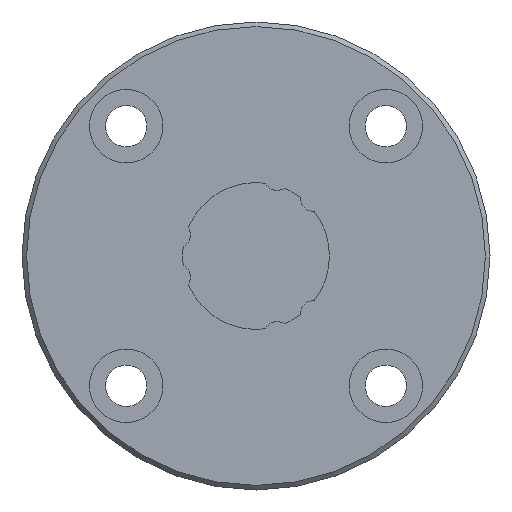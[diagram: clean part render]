
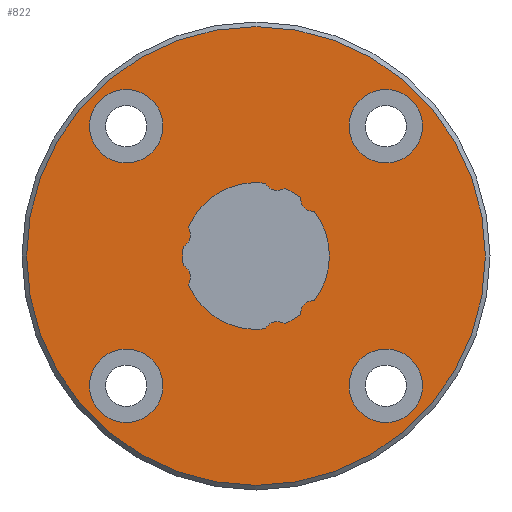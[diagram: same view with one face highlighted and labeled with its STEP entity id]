
A CAD part, left-side view. The second image highlights one B-rep face of the part: STEP entity #822.
In plain terms, the highlighted planar face has unit normal (-1, 0, 0).
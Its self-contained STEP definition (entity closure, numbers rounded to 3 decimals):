
#44=PLANE('',#927);
#175=ORIENTED_EDGE('',*,*,#351,.F.);
#176=ORIENTED_EDGE('',*,*,#352,.F.);
#177=ORIENTED_EDGE('',*,*,#353,.F.);
#178=ORIENTED_EDGE('',*,*,#354,.F.);
#179=ORIENTED_EDGE('',*,*,#355,.F.);
#180=ORIENTED_EDGE('',*,*,#356,.T.);
#181=ORIENTED_EDGE('',*,*,#357,.F.);
#182=ORIENTED_EDGE('',*,*,#358,.T.);
#183=ORIENTED_EDGE('',*,*,#359,.F.);
#184=ORIENTED_EDGE('',*,*,#360,.T.);
#185=ORIENTED_EDGE('',*,*,#361,.F.);
#186=ORIENTED_EDGE('',*,*,#362,.T.);
#187=ORIENTED_EDGE('',*,*,#363,.F.);
#188=ORIENTED_EDGE('',*,*,#364,.T.);
#189=ORIENTED_EDGE('',*,*,#365,.F.);
#190=ORIENTED_EDGE('',*,*,#366,.T.);
#191=ORIENTED_EDGE('',*,*,#367,.F.);
#351=EDGE_CURVE('',#445,#445,#523,.T.);
#352=EDGE_CURVE('',#446,#446,#524,.F.);
#353=EDGE_CURVE('',#447,#447,#525,.F.);
#354=EDGE_CURVE('',#448,#448,#526,.F.);
#355=EDGE_CURVE('',#449,#449,#527,.F.);
#356=EDGE_CURVE('',#450,#451,#528,.T.);
#357=EDGE_CURVE('',#452,#451,#529,.T.);
#358=EDGE_CURVE('',#452,#453,#530,.T.);
#359=EDGE_CURVE('',#454,#453,#531,.T.);
#360=EDGE_CURVE('',#454,#455,#532,.T.);
#361=EDGE_CURVE('',#456,#455,#533,.T.);
#362=EDGE_CURVE('',#456,#457,#534,.T.);
#363=EDGE_CURVE('',#458,#457,#535,.T.);
#364=EDGE_CURVE('',#458,#459,#536,.T.);
#365=EDGE_CURVE('',#460,#459,#537,.T.);
#366=EDGE_CURVE('',#460,#461,#538,.T.);
#367=EDGE_CURVE('',#450,#461,#539,.T.);
#445=VERTEX_POINT('',#1436);
#446=VERTEX_POINT('',#1438);
#447=VERTEX_POINT('',#1440);
#448=VERTEX_POINT('',#1442);
#449=VERTEX_POINT('',#1444);
#450=VERTEX_POINT('',#1446);
#451=VERTEX_POINT('',#1447);
#452=VERTEX_POINT('',#1449);
#453=VERTEX_POINT('',#1451);
#454=VERTEX_POINT('',#1453);
#455=VERTEX_POINT('',#1455);
#456=VERTEX_POINT('',#1457);
#457=VERTEX_POINT('',#1459);
#458=VERTEX_POINT('',#1461);
#459=VERTEX_POINT('',#1463);
#460=VERTEX_POINT('',#1465);
#461=VERTEX_POINT('',#1467);
#523=CIRCLE('',#928,25.);
#524=CIRCLE('',#929,4.);
#525=CIRCLE('',#930,4.);
#526=CIRCLE('',#931,4.);
#527=CIRCLE('',#932,4.);
#528=CIRCLE('',#933,8.);
#529=CIRCLE('',#934,1.44);
#530=CIRCLE('',#935,8.);
#531=CIRCLE('',#936,1.44);
#532=CIRCLE('',#937,8.);
#533=CIRCLE('',#938,1.44);
#534=CIRCLE('',#939,8.);
#535=CIRCLE('',#940,1.44);
#536=CIRCLE('',#941,8.);
#537=CIRCLE('',#942,1.44);
#538=CIRCLE('',#943,8.);
#539=CIRCLE('',#944,1.44);
#593=EDGE_LOOP('',(#175));
#594=EDGE_LOOP('',(#176));
#595=EDGE_LOOP('',(#177));
#596=EDGE_LOOP('',(#178));
#597=EDGE_LOOP('',(#179));
#598=EDGE_LOOP('',(#180,#181,#182,#183,#184,#185,#186,#187,#188,#189,#190,
#191));
#689=FACE_BOUND('',#593,.T.);
#690=FACE_BOUND('',#594,.T.);
#691=FACE_BOUND('',#595,.T.);
#692=FACE_BOUND('',#596,.T.);
#693=FACE_BOUND('',#597,.T.);
#694=FACE_BOUND('',#598,.T.);
#822=ADVANCED_FACE('',(#689,#690,#691,#692,#693,#694),#44,.F.);
#927=AXIS2_PLACEMENT_3D('',#1434,#1114,#1115);
#928=AXIS2_PLACEMENT_3D('',#1435,#1116,#1117);
#929=AXIS2_PLACEMENT_3D('',#1437,#1118,#1119);
#930=AXIS2_PLACEMENT_3D('',#1439,#1120,#1121);
#931=AXIS2_PLACEMENT_3D('',#1441,#1122,#1123);
#932=AXIS2_PLACEMENT_3D('',#1443,#1124,#1125);
#933=AXIS2_PLACEMENT_3D('',#1445,#1126,#1127);
#934=AXIS2_PLACEMENT_3D('',#1448,#1128,#1129);
#935=AXIS2_PLACEMENT_3D('',#1450,#1130,#1131);
#936=AXIS2_PLACEMENT_3D('',#1452,#1132,#1133);
#937=AXIS2_PLACEMENT_3D('',#1454,#1134,#1135);
#938=AXIS2_PLACEMENT_3D('',#1456,#1136,#1137);
#939=AXIS2_PLACEMENT_3D('',#1458,#1138,#1139);
#940=AXIS2_PLACEMENT_3D('',#1460,#1140,#1141);
#941=AXIS2_PLACEMENT_3D('',#1462,#1142,#1143);
#942=AXIS2_PLACEMENT_3D('',#1464,#1144,#1145);
#943=AXIS2_PLACEMENT_3D('',#1466,#1146,#1147);
#944=AXIS2_PLACEMENT_3D('',#1468,#1148,#1149);
#1114=DIRECTION('',(1.,0.,0.));
#1115=DIRECTION('',(0.,0.,-1.));
#1116=DIRECTION('',(1.,0.,0.));
#1117=DIRECTION('',(0.,0.,-1.));
#1118=DIRECTION('',(1.,0.,0.));
#1119=DIRECTION('',(0.,0.,-1.));
#1120=DIRECTION('',(1.,0.,0.));
#1121=DIRECTION('',(0.,0.,-1.));
#1122=DIRECTION('',(1.,0.,0.));
#1123=DIRECTION('',(0.,0.,-1.));
#1124=DIRECTION('',(1.,0.,0.));
#1125=DIRECTION('',(0.,0.,-1.));
#1126=DIRECTION('',(1.,0.,0.));
#1127=DIRECTION('',(0.,0.,-1.));
#1128=DIRECTION('',(1.,0.,0.));
#1129=DIRECTION('',(0.,0.,-1.));
#1130=DIRECTION('',(1.,0.,0.));
#1131=DIRECTION('',(0.,0.,-1.));
#1132=DIRECTION('',(1.,0.,0.));
#1133=DIRECTION('',(0.,0.,-1.));
#1134=DIRECTION('',(1.,0.,0.));
#1135=DIRECTION('',(0.,0.,-1.));
#1136=DIRECTION('',(1.,0.,0.));
#1137=DIRECTION('',(0.,0.,-1.));
#1138=DIRECTION('',(1.,0.,0.));
#1139=DIRECTION('',(0.,0.,-1.));
#1140=DIRECTION('',(1.,0.,0.));
#1141=DIRECTION('',(0.,0.,-1.));
#1142=DIRECTION('',(1.,0.,0.));
#1143=DIRECTION('',(0.,0.,-1.));
#1144=DIRECTION('',(1.,0.,0.));
#1145=DIRECTION('',(0.,0.,-1.));
#1146=DIRECTION('',(1.,0.,0.));
#1147=DIRECTION('',(0.,0.,-1.));
#1148=DIRECTION('',(1.,0.,0.));
#1149=DIRECTION('',(0.,0.,-1.));
#1434=CARTESIAN_POINT('',(0.,0.,0.));
#1435=CARTESIAN_POINT('',(0.,0.,0.));
#1436=CARTESIAN_POINT('',(0.,0.,-25.));
#1437=CARTESIAN_POINT('',(0.,-14.142,14.142));
#1438=CARTESIAN_POINT('',(0.,-14.142,10.142));
#1439=CARTESIAN_POINT('',(0.,-14.142,-14.142));
#1440=CARTESIAN_POINT('',(0.,-14.142,-18.142));
#1441=CARTESIAN_POINT('',(0.,14.142,-14.142));
#1442=CARTESIAN_POINT('',(0.,14.142,-18.142));
#1443=CARTESIAN_POINT('',(0.,14.142,14.142));
#1444=CARTESIAN_POINT('',(0.,14.142,10.142));
#1445=CARTESIAN_POINT('',(0.,0.,0.));
#1446=CARTESIAN_POINT('',(0.,7.934,-1.025));
#1447=CARTESIAN_POINT('',(0.,7.934,1.025));
#1448=CARTESIAN_POINT('',(0.,8.597,2.303));
#1449=CARTESIAN_POINT('',(0.,7.384,3.079));
#1450=CARTESIAN_POINT('',(0.,0.,0.));
#1451=CARTESIAN_POINT('',(0.,-1.025,7.934));
#1452=CARTESIAN_POINT('',(0.,-2.303,8.597));
#1453=CARTESIAN_POINT('',(0.,-3.079,7.384));
#1454=CARTESIAN_POINT('',(0.,0.,0.));
#1455=CARTESIAN_POINT('',(0.,-4.855,6.359));
#1456=CARTESIAN_POINT('',(0.,-6.293,6.293));
#1457=CARTESIAN_POINT('',(0.,-6.359,4.855));
#1458=CARTESIAN_POINT('',(0.,0.,0.));
#1459=CARTESIAN_POINT('',(0.,-6.359,-4.855));
#1460=CARTESIAN_POINT('',(0.,-6.293,-6.293));
#1461=CARTESIAN_POINT('',(0.,-4.855,-6.359));
#1462=CARTESIAN_POINT('',(0.,0.,0.));
#1463=CARTESIAN_POINT('',(0.,-3.079,-7.384));
#1464=CARTESIAN_POINT('',(0.,-2.303,-8.597));
#1465=CARTESIAN_POINT('',(0.,-1.025,-7.934));
#1466=CARTESIAN_POINT('',(0.,0.,0.));
#1467=CARTESIAN_POINT('',(0.,7.384,-3.079));
#1468=CARTESIAN_POINT('',(0.,8.597,-2.303));
